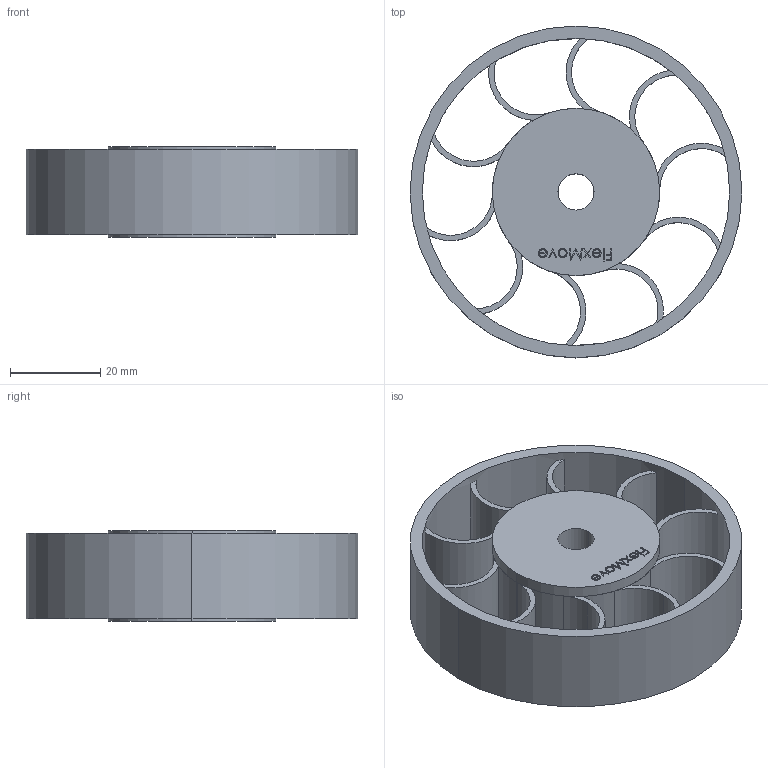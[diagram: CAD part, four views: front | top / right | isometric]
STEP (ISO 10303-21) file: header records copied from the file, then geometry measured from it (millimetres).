
FILE_DESCRIPTION (( 'STEP AP214' ), '1' );
FILE_NAME ('FASR 75x19P.STEP', '2017-04-06T09:09:59', ( '' ), ( '' ), 'SwSTEP 2.0', 'SolidWorks 2016', '' );
FILE_SCHEMA (( 'AUTOMOTIVE_DESIGN' ));
Length unit declared in the file: millimetre
Products named in the file (3): Corps FAFR-75-15; FASR 75x19P; Demi Axe FAFR75-15
Assembly tree (3 placements, depth 2):
  FASR 75x19P
    Corps FAFR-75-15
    Demi Axe FAFR75-15  x2
Bounding box: 73.4 x 73.4 x 20.2 mm (x, y, z)
Volume: 35098.7 mm3; surface area: 25501.1 mm2
Topology: 3 solids, 3 shells, 288 faces, 792 edges, 528 vertices
Faces by surface type: plane 156, cylinder 68, bspline 64
Entity records: 8635 total; most frequent: CARTESIAN_POINT 2665, ORIENTED_EDGE 954, DIRECTION 835, EDGE_CURVE 477, VERTEX_POINT 318, AXIS2_PLACEMENT_3D 280, VECTOR 275, LINE 275
